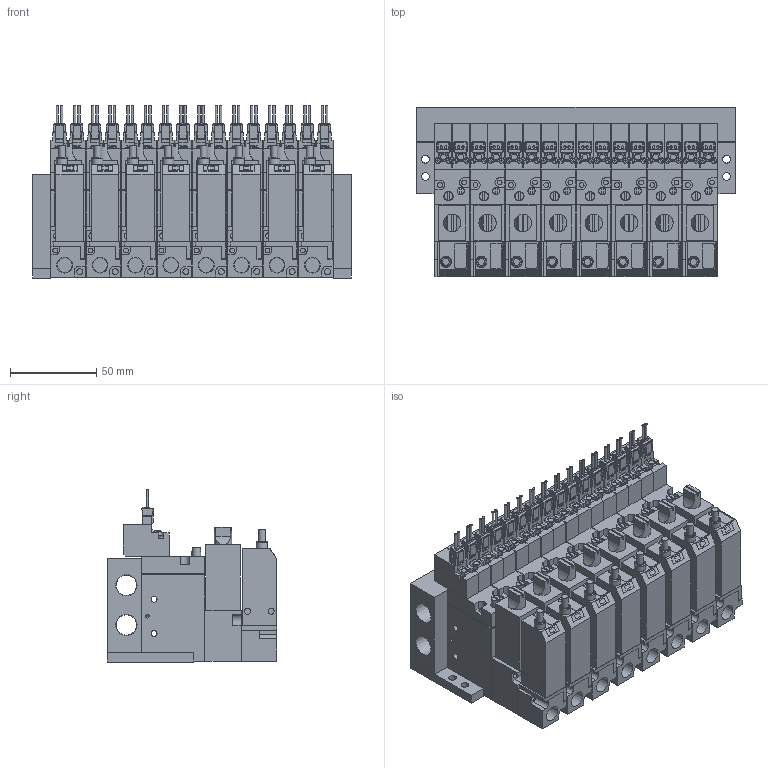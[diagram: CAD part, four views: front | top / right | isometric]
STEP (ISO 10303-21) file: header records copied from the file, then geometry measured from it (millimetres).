
FILE_DESCRIPTION(('STEP AP203'),'1');
FILE_NAME('BMPV32M2NAB25BL808.stp','2025-06-17T00:18:35',(' '),(' '),'Spatial InterOp 3D',' ',' ');
FILE_SCHEMA(('CONFIG_CONTROL_DESIGN'));
Length unit declared in the file: millimetre
Products named in the file (100): BMPV32M2NAB25BL808; Filter Assy; __; _____; MB BRACKET; MB08; Pressure sensor ABSL; ___ ___2; ___-2(Rc); ___; upper plate-A; ______; ____; VACUUM VALVE FUNCTION MPV42-A
Assembly tree (99 placements, depth 2):
  BMPV32M2NAB25BL808
    Filter Assy
    __
    _____
    Filter Assy
    __
    _____
    Filter Assy
    __
    _____
    Filter Assy
    __
    _____
    Filter Assy
    __
    _____
    Filter Assy
    __
    _____
    Filter Assy
    __
    _____
    MB BRACKET
    MB08
    Filter Assy
    __
    _____
    Pressure sensor ABSL
    MB BRACKET
    ___ ___2
    ___-2(Rc)
    ___-2(Rc)
    ___ ___2
    Pressure sensor ABSL
    ___-2(Rc)
    ___ ___2
    Pressure sensor ABSL
    ___-2(Rc)
    ___ ___2
    Pressure sensor ABSL
    ___-2(Rc)
    ___ ___2
    Pressure sensor ABSL
    ___-2(Rc)
    ___ ___2
    Pressure sensor ABSL
    ___-2(Rc)
    ___ ___2
    Pressure sensor ABSL
    ___-2(Rc)
    ___ ___2
    Pressure sensor ABSL
    ___
    upper plate-A
    ______
    ____
    VACUUM VALVE FUNCTION MPV42-A
    VACUUM VALVE FUNCTION MPV42-A
    ___
    upper plate-A
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Bounding box: 184.5 x 98 x 99.75 mm (x, y, z)
Volume: 946073.3 mm3; surface area: 311194.5 mm2
Topology: 99 solids, 99 shells, 2991 faces, 7780 edges, 5176 vertices
Faces by surface type: plane 2405, cylinder 522, cone 56, torus 8
Full cylindrical faces by diameter (mm): 1.4 x32, 1.8 x16, 2 x16, 2.5 x20, 2.8 x32, 3 x32, 3.5 x100, 4 x16, 4.2 x8, 4.5 x4, 5 x8, 5.5 x8, 6.5 x14, 8.522 x8, 11.776 x2
Entity records: 93750 total; most frequent: CARTESIAN_POINT 15999, DIRECTION 14738, ORIENTED_EDGE 14488, EDGE_CURVE 7244, LINE 5868, VECTOR 5868, VERTEX_POINT 5072, AXIS2_PLACEMENT_3D 4435
